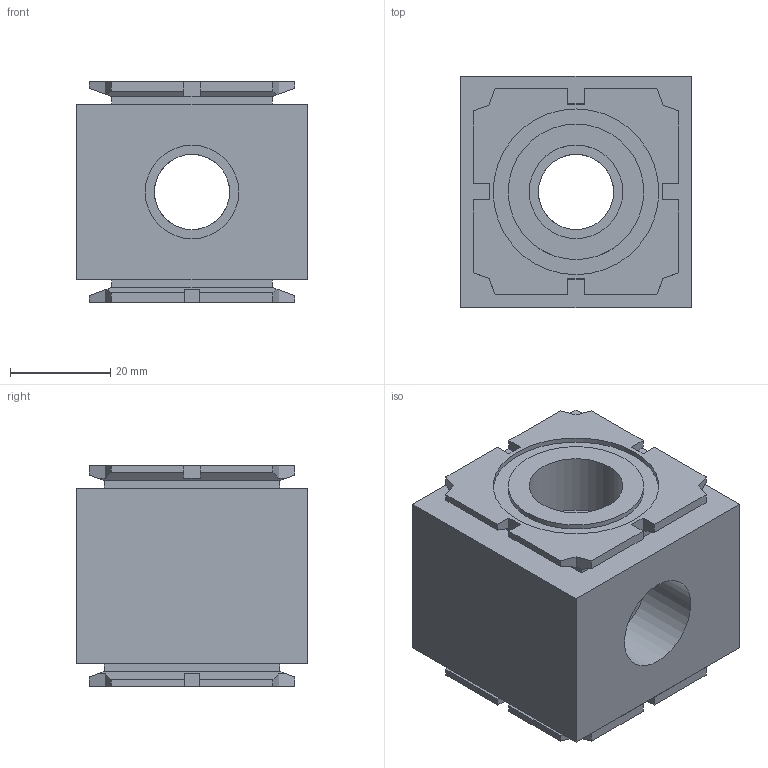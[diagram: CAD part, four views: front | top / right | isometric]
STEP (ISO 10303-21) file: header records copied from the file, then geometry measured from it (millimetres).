
FILE_DESCRIPTION( ( 'STEP AP214' ), '1' );
FILE_NAME( 'C:/Users/EMC02301/Desktop/EA气源配件/EA3003-04.stp', '2026-08-27T05:56:41', ( 'License CC BY-ND 4.0' ), ( 'CADENAS' ), ' ', 'PARTsolutions', ' ' );
FILE_SCHEMA( ( 'AUTOMOTIVE_DESIGN { 1 0 10303 214 1 1 1 1 }' ) );
Length unit declared in the file: millimetre
Products named in the file (3): EA3003-04; _EA3003-04-dummy; _EA3003-04-body
Assembly tree (2 placements, depth 2):
  EA3003-04
    _EA3003-04-dummy
    _EA3003-04-body
Bounding box: 46 x 46 x 44 mm (x, y, z)
Volume: 63272 mm3; surface area: 17826.3 mm2
Topology: 1 solids, 1 shells, 115 faces, 301 edges, 197 vertices
Faces by surface type: plane 101, cylinder 14
Full cylindrical faces by diameter (mm): 15 x5, 18.631 x5, 27 x2, 33 x2
Entity records: 4362 total; most frequent: CARTESIAN_POINT 594, ORIENTED_EDGE 566, DIRECTION 550, EDGE_CURVE 283, LINE 252, VECTOR 252, VERTEX_POINT 192, AXIS2_PLACEMENT_3D 149
